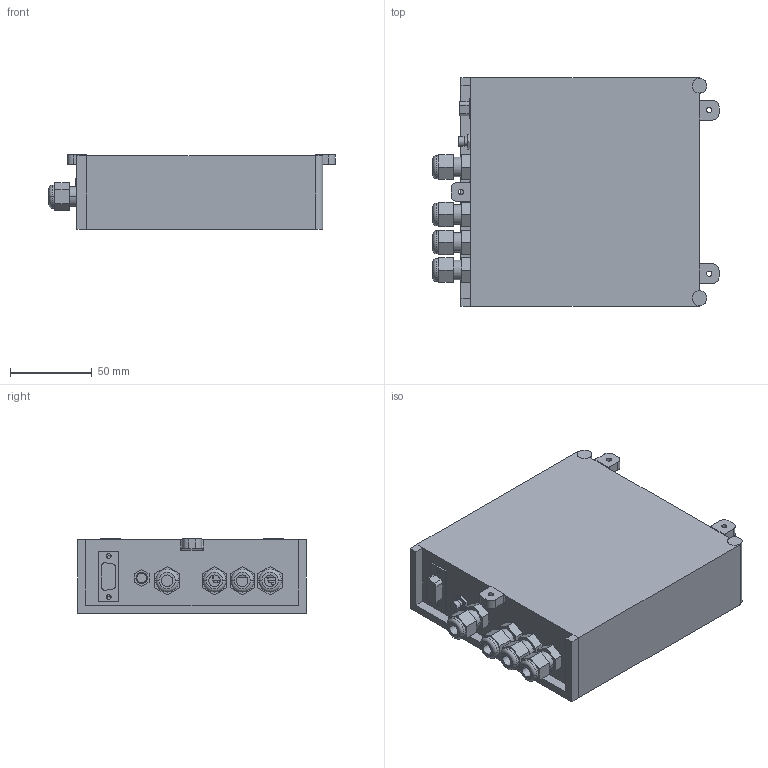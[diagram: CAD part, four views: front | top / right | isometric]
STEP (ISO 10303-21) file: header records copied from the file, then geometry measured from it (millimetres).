
FILE_DESCRIPTION(/* description */ ('VariCAD 2014-2.05 AP-214'),/* implementation_level */ '2;1');
FILE_NAME(/* name */ 'LG9400kpl.stp',/* time_stamp */ '2023-01-01T21:01:00+01:00',/* author */ (''),/* organization */ (''),/* preprocessor_version */ 'ST-DEVELOPER v14',/* originating_system */ 'VariCAD 2014-2.05; kernel version (20130303)',/* authorisation */ '');
FILE_SCHEMA (('AUTOMOTIVE_DESIGN'));
Products named in the file (11): LG9400kpl
Assembly tree (10 placements, depth 2):
  LG9400kpl
    (unnamed)
    (unnamed)
    (unnamed)
    (unnamed)
    (unnamed)
    (unnamed)
    (unnamed)
    (unnamed)
    (unnamed)
    (unnamed)
Bounding box: 175.07 x 140 x 45.6 mm (x, y, z)
Volume: 295910.9 mm3; surface area: 131266.1 mm2
Topology: 83 solids, 83 shells, 2821 faces, 6928 edges, 4425 vertices
Faces by surface type: plane 2027, cylinder 776, torus 15, cone 2, sphere 1
Entity records: 83158 total; most frequent: CARTESIAN_POINT 15060, DIRECTION 13979, ORIENTED_EDGE 13854, EDGE_CURVE 6927, LINE 5051, VECTOR 5051, AXIS2_PLACEMENT_3D 4464, VERTEX_POINT 4425
